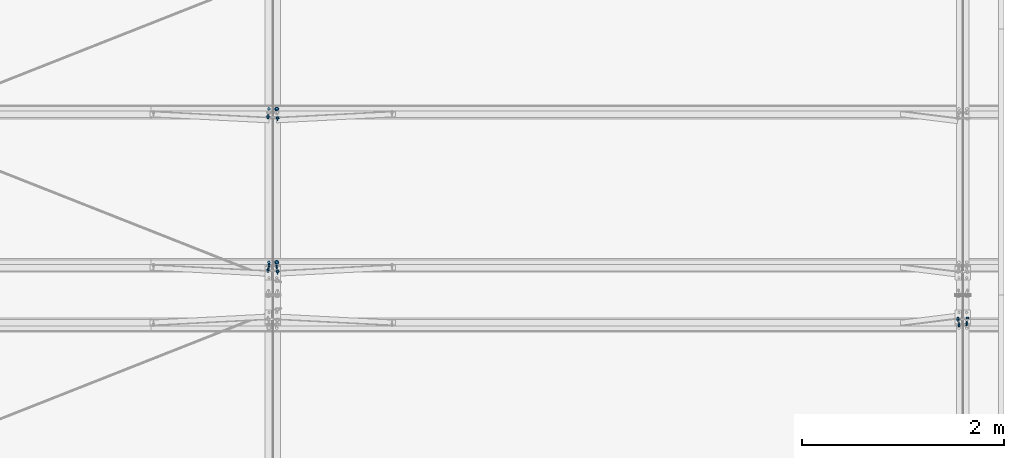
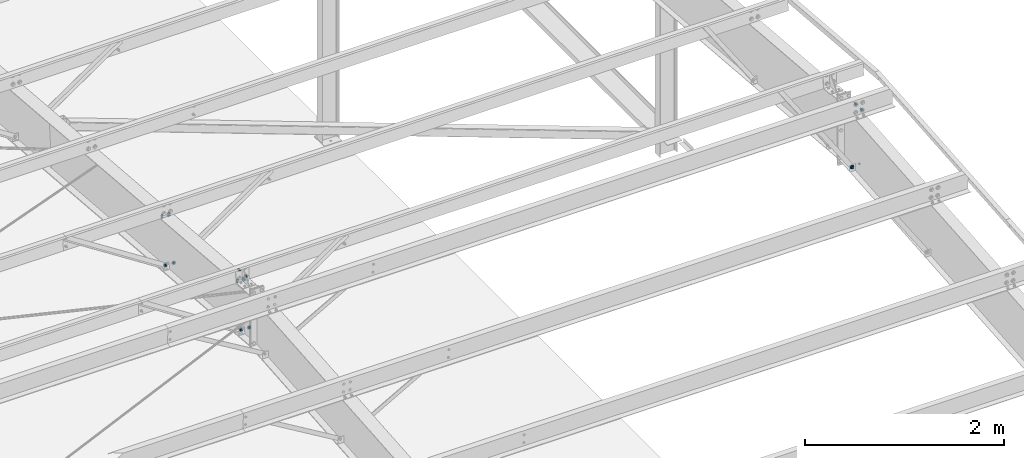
# One storey, part 173 of 185: 19 mechanical fasteners, 11 elements without a shape of their own.
"""IFC2X3 building model written with IfcOpenShell, lengths in millimetres."""

import ifcopenshell
import ifcopenshell.guid

model = None  # the IFC model being written
_history = None  # IfcOwnerHistory: only IFC2X3 demands one
_inside = {}  # id of a spatial element -> (the spatial element, [elements in it])
_under = {}  # id of a project, library or spatial element -> (it, [spatial elements below it])
_declared = {}  # id of a project -> (the project, [libraries it declares])
_typed = {}  # id of a type object -> (the type object, [elements of that type])
_made_of = {}  # id of a material, layer set ... -> (it, [elements and type objects made of it])


def new_model(schema):
    """Start an empty IFC model of exactly this schema.

    Asked for "IFC4X3", IfcOpenShell would pick the latest addendum, in which some entities
    have other attributes; the version numbers below select the first issue.
    IFC2X3 requires an IfcOwnerHistory on every rooted entity: one is made here for all.
    """
    global model, _history
    if schema == "IFC4X3":
        model = ifcopenshell.file(schema_version=(4, 3, 0, 0))
    else:
        model = ifcopenshell.file(schema=schema)
    _inside.clear()
    _under.clear()
    _declared.clear()
    _typed.clear()
    _made_of.clear()
    _history = None
    if model.schema == "IFC2X3":
        org = make("IfcOrganization", Name="unknown")
        user = make(
            "IfcPersonAndOrganization",
            ThePerson=make("IfcPerson", FamilyName="unknown"),
            TheOrganization=org,
        )
        app = make(
            "IfcApplication",
            ApplicationDeveloper=org,
            Version="unknown",
            ApplicationFullName="unknown",
            ApplicationIdentifier="unknown",
        )
        _history = make(
            "IfcOwnerHistory",
            OwningUser=user,
            OwningApplication=app,
            ChangeAction="ADDED",
            CreationDate=0,
        )
    return model


def make(cls, **values):
    """One entity of the class cls with the attributes given. An attribute that is None is left unset."""
    return model.create_entity(
        cls, **{name: value for name, value in values.items() if value is not None}
    )


def rooted(cls, **values):
    """An entity with a GlobalId (a new one), such as an element, a storey or a relation."""
    return make(cls, GlobalId=ifcopenshell.guid.new(), OwnerHistory=_history, **values)


def si_unit(unit_type, name, prefix=None):
    """IfcSIUnit, for example si_unit("LENGTHUNIT", "METRE", prefix="MILLI")."""
    return make("IfcSIUnit", UnitType=unit_type, Prefix=prefix, Name=name)


def assignment(units):
    """IfcUnitAssignment: the units of a project."""
    return None if units is None else make("IfcUnitAssignment", Units=units)


def point(xyz):
    """IfcCartesianPoint."""
    return None if xyz is None else make("IfcCartesianPoint", Coordinates=xyz)


def direction(xyz):
    """IfcDirection."""
    return None if xyz is None else make("IfcDirection", DirectionRatios=xyz)


def frame(location, z_axis=None, x_axis=None):
    """IfcAxis2Placement3D, a coordinate frame: its origin and axes. An axis left out is left unset."""
    return make(
        "IfcAxis2Placement3D",
        Location=point(location),
        Axis=direction(z_axis),
        RefDirection=direction(x_axis),
    )


def frame_2d(location, x_axis=None):
    """IfcAxis2Placement2D, a coordinate frame in the plane: its origin and x axis."""
    return make(
        "IfcAxis2Placement2D", Location=point(location), RefDirection=direction(x_axis)
    )


def origin_with_axes():
    """The frame at (0, 0, 0) with the z axis (0, 0, 1) and the x axis (1, 0, 0) written out."""
    return frame((0.0, 0.0, 0.0), z_axis=(0.0, 0.0, 1.0), x_axis=(1.0, 0.0, 0.0))


def origin_2d_with_axis():
    """The frame at (0, 0) in the plane with the x axis (1, 0) written out."""
    return frame_2d((0.0, 0.0), x_axis=(1.0, 0.0))


def place(relative_to, where):
    """IfcLocalPlacement: puts the frame where relative to a parent placement (None: the world)."""
    return make(
        "IfcLocalPlacement", PlacementRelTo=relative_to, RelativePlacement=where
    )


def context(
    kind, dimensions, precision=None, world=None, true_north=None, identifier=None
):
    """IfcGeometricRepresentationContext, for example the 3D "Model" context."""
    return make(
        "IfcGeometricRepresentationContext",
        ContextIdentifier=identifier,
        ContextType=kind,
        CoordinateSpaceDimension=dimensions,
        Precision=precision,
        WorldCoordinateSystem=world,
        TrueNorth=true_north,
    )


def subcontext(parent, identifier, kind, view, scale=None):
    """IfcGeometricRepresentationSubContext, for example "Body" below "Model"."""
    return make(
        "IfcGeometricRepresentationSubContext",
        ContextIdentifier=identifier,
        ContextType=kind,
        ParentContext=parent,
        TargetScale=scale,
        TargetView=view,
    )


def project(units=None, contexts=None):
    """IfcProject with its units and contexts."""
    return rooted(
        "IfcProject",
        Name="project",
        RepresentationContexts=contexts,
        UnitsInContext=assignment(units),
    )


def spatial(cls, under=None, at=None, **own):
    """A site, building, storey or space (cls), placed at a placement, below another one or the project."""
    s = rooted(cls, ObjectPlacement=at, **own)
    if under is not None:
        _under.setdefault(under.id(), (under, []))[1].append(s)
    return s


def polyline(points):
    """IfcPolyline through the points."""
    return make("IfcPolyline", Points=[point(p) for p in points])


def profile(cls, at=None, kind="AREA", **sizes):
    """A parametric profile (cls). Its sizes go by their IFC names, for example OverallWidth=200.0."""
    return make(cls, ProfileType=kind, Position=at, **sizes)


def circle(**sizes):
    """IfcCircleProfileDef."""
    return profile("IfcCircleProfileDef", **sizes)


def outline(outer, holes=None, kind="AREA"):
    """IfcArbitraryClosedProfileDef: a profile drawn as a closed curve; with holes, ...WithVoids."""
    if holes is None:
        return make("IfcArbitraryClosedProfileDef", ProfileType=kind, OuterCurve=outer)
    return make(
        "IfcArbitraryProfileDefWithVoids",
        ProfileType=kind,
        OuterCurve=outer,
        InnerCurves=holes,
    )


def extrude(swept, where, along, depth):
    """IfcExtrudedAreaSolid: the profile swept, set in the frame where, extruded along a direction by depth."""
    return make(
        "IfcExtrudedAreaSolid",
        SweptArea=swept,
        Position=where,
        ExtrudedDirection=direction(along),
        Depth=depth,
    )


def shape(context_of_items, identifier, shape_type, items):
    """IfcShapeRepresentation: the items that make up one representation, for example the "Body"."""
    return make(
        "IfcShapeRepresentation",
        ContextOfItems=context_of_items,
        RepresentationIdentifier=identifier,
        RepresentationType=shape_type,
        Items=items,
    )


def source(mapping_origin, context_of_items, identifier, shape_type, items):
    """IfcRepresentationMap: a shape defined once, which mapped items show again and again."""
    return make(
        "IfcRepresentationMap",
        MappingOrigin=mapping_origin,
        MappedRepresentation=shape(context_of_items, identifier, shape_type, items),
    )


def transform(
    local_origin,
    x_axis=None,
    y_axis=None,
    z_axis=None,
    scale=None,
    scale2=None,
    scale3=None,
    uniform=True,
):
    """IfcCartesianTransformationOperator3D, or its non-uniform kind. x_axis, y_axis, z_axis: its Axis1, 2, 3."""
    if uniform:
        return make(
            "IfcCartesianTransformationOperator3D",
            Axis1=direction(x_axis),
            Axis2=direction(y_axis),
            LocalOrigin=point(local_origin),
            Scale=scale,
            Axis3=direction(z_axis),
        )
    return make(
        "IfcCartesianTransformationOperator3DnonUniform",
        Axis1=direction(x_axis),
        Axis2=direction(y_axis),
        LocalOrigin=point(local_origin),
        Scale=scale,
        Axis3=direction(z_axis),
        Scale2=scale2,
        Scale3=scale3,
    )


def mapped(mapping_source, mapping_target):
    """IfcMappedItem: shows the shape of a source again, moved by a transform."""
    return make(
        "IfcMappedItem", MappingSource=mapping_source, MappingTarget=mapping_target
    )


def material(Name=None, Category=None):
    """IfcMaterial."""
    return make("IfcMaterial", Name=Name, Category=Category)


def made_of(thing, what):
    """Note that an element or type object is made of a material, layer set ...; save() writes the relation."""
    if what is not None:
        _made_of.setdefault(what.id(), (what, []))[1].append(thing)
    return thing


def type_object(cls, material=None, **own):
    """A type object (cls), such as IfcWallType, which elements share."""
    return made_of(rooted(cls, **own), material)


def element(
    cls,
    number,
    at=None,
    inside=None,
    cuts=None,
    type_object=None,
    material=None,
    context=None,
    identifier="Body",
    shape_type=None,
    held_by="IfcProductDefinitionShape",
    body=None,
    shapes=None,
    **own,
):
    """One element of the class cls, such as IfcWall. Its Tag is "e" and its number.

    at: its placement. inside: the storey or other place that contains it. cuts: it is an
    opening in that element (IfcRelVoidsElement). A single representation is given by context,
    identifier, shape_type and body (its items); several are given by shapes. held_by: the class
    of the entity that holds the representations. save() writes the other relations.
    """
    e = rooted(cls, Tag="e%d" % number, ObjectPlacement=at, **own)
    if body is not None:
        shapes = [shape(context, identifier, shape_type, body)]
    if shapes is not None:
        e.Representation = make(held_by, Representations=shapes)
    if inside is not None:
        _inside.setdefault(inside.id(), (inside, []))[1].append(e)
    if cuts is not None:
        rooted(
            "IfcRelVoidsElement", RelatingBuildingElement=cuts, RelatedOpeningElement=e
        )
    if type_object is not None:
        _typed.setdefault(type_object.id(), (type_object, []))[1].append(e)
    return made_of(e, material)


def aggregate(whole, parts):
    """IfcRelAggregates: a whole, such as a stair, and the parts it consists of."""
    return rooted("IfcRelAggregates", RelatingObject=whole, RelatedObjects=parts)


def save(model, path):
    """Write the relations noted so far, then the file.

    IfcRelAggregates (storeys below a building ...), IfcRelContainedInSpatialStructure (elements
    in a storey), IfcRelDefinesByType, IfcRelAssociatesMaterial and IfcRelDeclares: one each for
    every whole, place, type object, material and project.
    """
    for whole, parts in _under.values():
        aggregate(whole, parts)
    for where, things in _inside.values():
        rooted(
            "IfcRelContainedInSpatialStructure",
            RelatedElements=things,
            RelatingStructure=where,
        )
    for kind, things in _typed.values():
        rooted("IfcRelDefinesByType", RelatedObjects=things, RelatingType=kind)
    for what, things in _made_of.values():
        rooted("IfcRelAssociatesMaterial", RelatedObjects=things, RelatingMaterial=what)
    for by, libraries in _declared.values():
        rooted("IfcRelDeclares", RelatingContext=by, RelatedDefinitions=libraries)
    model.write(path)


model = new_model("IFC2X3")

# Units and contexts
model_context = context("Model", 3, precision=1e-05, world=origin_with_axes())
body_context = subcontext(model_context, "Body", "Model", "MODEL_VIEW")
ifc_project = project(units=[si_unit("LENGTHUNIT", "METRE", prefix="MILLI"), si_unit("AREAUNIT", "SQUARE_METRE"), si_unit("VOLUMEUNIT", "CUBIC_METRE"), si_unit("MASSUNIT", "GRAM", prefix="KILO"), si_unit("TIMEUNIT", "SECOND"), si_unit("PLANEANGLEUNIT", "RADIAN"), si_unit("SOLIDANGLEUNIT", "STERADIAN"), si_unit("THERMODYNAMICTEMPERATUREUNIT", "DEGREE_CELSIUS"), si_unit("LUMINOUSINTENSITYUNIT", "LUMEN")], contexts=[model_context])

# Site, building, storey
site_placement = place(None, origin_with_axes())
site = spatial("IfcSite", under=ifc_project, at=site_placement, Name="Undefined", CompositionType="ELEMENT")
building_placement = place(site_placement, origin_with_axes())
building = spatial("IfcBuilding", under=site, at=building_placement, Name="Undefined", CompositionType="ELEMENT")
storey_placement = place(building_placement, origin_with_axes())
storey = spatial("IfcBuildingStorey", under=building, at=storey_placement, Name="Undefined", CompositionType="ELEMENT", Elevation=0.0)

# Assembly, mechanical fastener
assembly_1_placement = place(storey_placement, origin_with_axes())
assembly_1 = element("IfcElementAssembly", 1, at=assembly_1_placement, inside=storey, Name="Steel Assembly", AssemblyPlace="NOTDEFINED", PredefinedType="RIGID_FRAME")
ifc_material_1 = material(Name="Undefined")
discrete_accessory_type = type_object("IfcDiscreteAccessoryType", Name="Bolt assembly")
shared_shape_1 = source(origin_with_axes(), body_context, "Body", "SweptSolid", [
    extrude(circle(Radius=7.14374971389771, at=origin_2d_with_axis()), frame((0.0, -1.59000001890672, 0.0), z_axis=(0.0, 1.0, 0.0), x_axis=(1.0, 0.0, 0.0)), (0.0, 0.0, 1.0), 1.7),
    extrude(outline(polyline([(10.9985221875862, 0.0), (5.4992610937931, 9.52499961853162), (-5.4992610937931, 9.52499961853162), (-10.9985221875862, 0.0), (-5.4992610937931, -9.52499961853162), (5.4992610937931, -9.52499961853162), (10.9985221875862, 0.0)])), frame((0.0, -15.0837496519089, 0.0), z_axis=(0.0, 1.0, 0.0), x_axis=(1.0, 0.0, 0.0)), (0.0, 0.0, 1.0), 9.5),
    extrude(circle(Radius=6.34999990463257, at=origin_2d_with_axis()), frame((0.0, -5.5587500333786, 0.0), z_axis=(0.0, 1.0, 0.0), x_axis=(1.0, 0.0, 0.0)), (0.0, 0.0, 1.0), 38.1),
    extrude(circle(Radius=13.4937496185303, at=origin_2d_with_axis()), frame((0.0, -5.5587500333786, 0.0), z_axis=(0.0, 1.0, 0.0), x_axis=(1.0, 0.0, 0.0)), (0.0, 0.0, 1.0), 4.0),
    extrude(circle(Radius=22.2250003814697, at=origin_2d_with_axis()), frame((0.0, 0.0, 0.0), z_axis=(0.0, 1.0, 0.0), x_axis=(1.0, 0.0, 0.0)), (0.0, 0.0, 1.0), 7.9),
    extrude(outline(polyline([(12.8316099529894, 0.0), (6.4158049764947, 11.1125001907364), (-6.4158049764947, 11.1125001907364), (-12.8316099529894, 0.0), (-6.4158049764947, -11.1125001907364), (6.4158049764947, -11.1125001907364), (12.8316099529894, 0.0)])), frame((0.0, 7.93750000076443, 0.0), z_axis=(0.0, 1.0, 0.0), x_axis=(1.0, 0.0, 0.0)), (0.0, 0.0, 1.0), 12.3),
])
mechanical_fastener_1_placement = place(assembly_1_placement, frame((44504.8883669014, 15769.6385191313, 6547.56487314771), z_axis=(0.832860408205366, -0.0459642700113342, 0.551571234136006), x_axis=(-0.553483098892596, -0.0691652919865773, 0.829983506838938)))
mechanical_fastener_1 = element("IfcMechanicalFastener", 2, at=mechanical_fastener_1_placement, type_object=discrete_accessory_type, material=ifc_material_1, Name="Bolt assembly", NominalDiameter=12.6999998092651, NominalLength=38.0999984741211, context=body_context, shape_type="MappedRepresentation", body=[
    mapped(shared_shape_1, transform((0.0, 0.0, 0.0))),
])
aggregate(assembly_1, [mechanical_fastener_1])

assembly_2_placement = place(storey_placement, origin_with_axes())
assembly_2 = element("IfcElementAssembly", 3, at=assembly_2_placement, inside=storey, Name="Steel Assembly", AssemblyPlace="NOTDEFINED", PredefinedType="RIGID_FRAME")
mechanical_fastener_2_placement = place(assembly_2_placement, frame((37671.9939479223, 16242.6408740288, 6646.91759139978), z_axis=(-0.530152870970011, -0.0704144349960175, -0.844973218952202), x_axis=(-0.847902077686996, 0.0440267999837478, 0.52832159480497)))
mechanical_fastener_2 = element("IfcMechanicalFastener", 4, at=mechanical_fastener_2_placement, type_object=discrete_accessory_type, material=ifc_material_1, Name="Bolt assembly", NominalDiameter=12.6999998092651, NominalLength=38.0999984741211, context=body_context, shape_type="MappedRepresentation", body=[
    mapped(shared_shape_1, transform((0.0, 0.0, 0.0))),
])
aggregate(assembly_2, [mechanical_fastener_2])

assembly_3_placement = place(storey_placement, origin_with_axes())
assembly_3 = element("IfcElementAssembly", 5, at=assembly_3_placement, inside=storey, Name="Steel Assembly", AssemblyPlace="NOTDEFINED", PredefinedType="RIGID_FRAME")
mechanical_fastener_3_placement = place(assembly_3_placement, frame((37671.9939479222, 17761.3766095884, 6520.35628009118), z_axis=(-0.530152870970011, -0.0704144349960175, -0.844973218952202), x_axis=(-0.847902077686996, 0.0440267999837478, 0.52832159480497)))
mechanical_fastener_3 = element("IfcMechanicalFastener", 6, at=mechanical_fastener_3_placement, type_object=discrete_accessory_type, material=ifc_material_1, Name="Bolt assembly", NominalDiameter=12.6999998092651, NominalLength=38.0999984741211, context=body_context, shape_type="MappedRepresentation", body=[
    mapped(shared_shape_1, transform((0.0, 0.0, 0.0))),
])
aggregate(assembly_3, [mechanical_fastener_3])

assembly_4_placement = place(storey_placement, origin_with_axes())
assembly_4 = element("IfcElementAssembly", 7, at=assembly_4_placement, inside=storey, Name="Steel Assembly", AssemblyPlace="NOTDEFINED", PredefinedType="RIGID_FRAME")
shared_shape_2 = source(origin_with_axes(), body_context, "Body", "SweptSolid", [
    extrude(circle(Radius=7.14374971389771, at=origin_2d_with_axis()), frame((0.0, 0.0, 0.0), z_axis=(0.0, 1.0, 0.0), x_axis=(1.0, 0.0, 0.0)), (0.0, 0.0, 1.0), 1.7),
    extrude(outline(polyline([(10.9985221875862, 0.0), (5.4992610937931, 9.52499961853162), (-5.4992610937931, 9.52499961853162), (-10.9985221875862, 0.0), (-5.4992610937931, -9.52499961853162), (5.4992610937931, -9.52499961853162), (10.9985221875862, 0.0)])), frame((0.0, -13.4937496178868, 0.0), z_axis=(0.0, 1.0, 0.0), x_axis=(1.0, 0.0, 0.0)), (0.0, 0.0, 1.0), 9.5),
    extrude(circle(Radius=6.34999990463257, at=origin_2d_with_axis()), frame((0.0, -3.96874999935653, 0.0), z_axis=(0.0, 1.0, 0.0), x_axis=(1.0, 0.0, 0.0)), (0.0, 0.0, 1.0), 38.1),
    extrude(circle(Radius=13.4937496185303, at=origin_2d_with_axis()), frame((0.0, -3.96874999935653, 0.0), z_axis=(0.0, 1.0, 0.0), x_axis=(1.0, 0.0, 0.0)), (0.0, 0.0, 1.0), 4.0),
    extrude(circle(Radius=22.2250003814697, at=origin_2d_with_axis()), frame((0.0, 1.5900000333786, 0.0), z_axis=(0.0, 1.0, 0.0), x_axis=(1.0, 0.0, 0.0)), (0.0, 0.0, 1.0), 7.9),
    extrude(outline(polyline([(12.8316099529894, 0.0), (6.4158049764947, 11.1125001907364), (-6.4158049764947, 11.1125001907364), (-12.8316099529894, 0.0), (-6.4158049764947, -11.1125001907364), (6.4158049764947, -11.1125001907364), (12.8316099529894, 0.0)])), frame((0.0, 9.5275000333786, 0.0), z_axis=(0.0, 1.0, 0.0), x_axis=(1.0, 0.0, 0.0)), (0.0, 0.0, 1.0), 12.3),
])
mechanical_fastener_4_placement = place(assembly_4_placement, frame((37766.0060520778, 17761.3766095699, 6520.35628008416), z_axis=(0.530152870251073, -0.0704144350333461, -0.844973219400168), x_axis=(0.847902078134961, 0.0440268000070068, 0.528321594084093)))
mechanical_fastener_4 = element("IfcMechanicalFastener", 8, at=mechanical_fastener_4_placement, type_object=discrete_accessory_type, material=ifc_material_1, Name="Bolt assembly", NominalDiameter=12.6999998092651, NominalLength=38.0999984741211, context=body_context, shape_type="MappedRepresentation", body=[
    mapped(shared_shape_2, transform((0.0, 0.0, 0.0))),
])
aggregate(assembly_4, [mechanical_fastener_4])

assembly_5_placement = place(storey_placement, origin_with_axes())
assembly_5 = element("IfcElementAssembly", 9, at=assembly_5_placement, inside=storey, Name="Steel Assembly", AssemblyPlace="NOTDEFINED", PredefinedType="RIGID_FRAME")
mechanical_fastener_5_placement = place(assembly_5_placement, frame((37766.0060520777, 16242.640874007, 6646.91759139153), z_axis=(0.530152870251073, -0.0704144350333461, -0.844973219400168), x_axis=(0.847902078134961, 0.0440268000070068, 0.528321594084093)))
mechanical_fastener_5 = element("IfcMechanicalFastener", 10, at=mechanical_fastener_5_placement, type_object=discrete_accessory_type, material=ifc_material_1, Name="Bolt assembly", NominalDiameter=12.6999998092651, NominalLength=38.0999984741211, context=body_context, shape_type="MappedRepresentation", body=[
    mapped(shared_shape_2, transform((0.0, 0.0, 0.0))),
])
aggregate(assembly_5, [mechanical_fastener_5])

assembly_6_placement = place(storey_placement, origin_with_axes())
assembly_6 = element("IfcElementAssembly", 11, at=assembly_6_placement, inside=storey, Name="Steel Assembly", AssemblyPlace="NOTDEFINED", PredefinedType="RIGID_FRAME")
ifc_material_2 = material(Name="7990")
shared_shape_3 = source(origin_with_axes(), body_context, "Body", "SweptSolid", [
    extrude(circle(Radius=7.14374971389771, at=origin_2d_with_axis()), frame((0.0, -3.41600000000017, 0.0), z_axis=(0.0, 1.0, 0.0), x_axis=(1.0, 0.0, 0.0)), (0.0, 0.0, 1.0), 3.5),
    extrude(circle(Radius=11.4299998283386, at=origin_2d_with_axis()), frame((0.0, 0.0, 0.0), z_axis=(0.0, 1.0, 0.0), x_axis=(1.0, 0.0, 0.0)), (0.0, 0.0, 1.0), 4.2),
    extrude(outline(polyline([(12.171698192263, 0.0), (6.08584909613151, 10.5409998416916), (-6.08584909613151, 10.5409998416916), (-12.171698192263, 0.0), (-6.08584909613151, -10.5409998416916), (6.08584909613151, -10.5409998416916), (12.171698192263, 0.0)])), frame((0.0, 4.1909999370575, 0.0), z_axis=(0.0, 1.0, 0.0), x_axis=(1.0, 0.0, 0.0)), (0.0, 0.0, 1.0), 8.4),
])
mechanical_fastener_6_placement = place(assembly_6_placement, frame((44597.75815, 15769.7076844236, 6546.73488964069), z_axis=(0.921635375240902, -0.0322263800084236, 0.386716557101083), x_axis=(0.388056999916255, 0.0765376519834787, -0.9184518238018)))
mechanical_fastener_6 = element("IfcMechanicalFastener", 12, at=mechanical_fastener_6_placement, type_object=discrete_accessory_type, material=ifc_material_2, Name="Bolt assembly", NominalDiameter=12.6999998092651, NominalLength=38.0999984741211, context=body_context, shape_type="MappedRepresentation", body=[
    mapped(shared_shape_3, transform((0.0, 0.0, 0.0))),
])

# Assembly, mechanical fasteners
assembly_7_placement = place(storey_placement, origin_with_axes())
assembly_7 = element("IfcElementAssembly", 13, at=assembly_7_placement, inside=storey, Name="Steel Assembly", AssemblyPlace="NOTDEFINED", PredefinedType="RIGID_FRAME")
mechanical_fastener_7_placement = place(assembly_7_placement, frame((37765.15815, 16242.5968472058, 6646.38926977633), z_axis=(-0.921635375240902, -0.0322263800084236, -0.386716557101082), x_axis=(0.388056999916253, -0.0765376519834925, -0.918451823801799)))
mechanical_fastener_7 = element("IfcMechanicalFastener", 14, at=mechanical_fastener_7_placement, type_object=discrete_accessory_type, material=ifc_material_2, Name="Bolt assembly", NominalDiameter=12.6999998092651, NominalLength=38.0999984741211, context=body_context, shape_type="MappedRepresentation", body=[
    mapped(shared_shape_3, transform((0.0, 0.0, 0.0))),
])
mechanical_fastener_8_placement = place(assembly_7_placement, frame((37765.15815, 17761.3325827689, 6519.82795847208), z_axis=(-0.921635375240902, -0.0322263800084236, -0.386716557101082), x_axis=(0.388056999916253, -0.0765376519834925, -0.918451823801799)))
mechanical_fastener_8 = element("IfcMechanicalFastener", 15, at=mechanical_fastener_8_placement, type_object=discrete_accessory_type, material=ifc_material_2, Name="Bolt assembly", NominalDiameter=12.6999998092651, NominalLength=38.0999984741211, context=body_context, shape_type="MappedRepresentation", body=[
    mapped(shared_shape_3, transform((0.0, 0.0, 0.0))),
])

# Mechanical fastener
shared_shape_4 = source(origin_with_axes(), body_context, "Body", "SweptSolid", [
    extrude(circle(Radius=7.14374971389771, at=origin_2d_with_axis()), frame((0.0, 0.0, 0.0), z_axis=(0.0, 1.0, 0.0), x_axis=(1.0, 0.0, 0.0)), (0.0, 0.0, 1.0), 3.5),
    extrude(circle(Radius=11.4299998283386, at=origin_2d_with_axis()), frame((0.0, 3.41600000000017, 0.0), z_axis=(0.0, 1.0, 0.0), x_axis=(1.0, 0.0, 0.0)), (0.0, 0.0, 1.0), 4.2),
    extrude(outline(polyline([(12.171698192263, 0.0), (6.08584909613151, 10.5409998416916), (-6.08584909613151, 10.5409998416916), (-12.171698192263, 0.0), (-6.08584909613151, -10.5409998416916), (6.08584909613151, -10.5409998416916), (12.171698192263, 0.0)])), frame((0.0, 7.60699993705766, 0.0), z_axis=(0.0, 1.0, 0.0), x_axis=(1.0, 0.0, 0.0)), (0.0, 0.0, 1.0), 8.4),
])
mechanical_fastener_9_placement = place(assembly_6_placement, frame((44505.44185, 15769.7076844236, 6546.73488964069), z_axis=(-0.921635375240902, -0.0322263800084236, 0.386716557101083), x_axis=(-0.388056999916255, 0.0765376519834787, -0.9184518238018)))
mechanical_fastener_9 = element("IfcMechanicalFastener", 16, at=mechanical_fastener_9_placement, type_object=discrete_accessory_type, material=ifc_material_2, Name="Bolt assembly", NominalDiameter=12.6999998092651, NominalLength=38.0999984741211, context=body_context, shape_type="MappedRepresentation", body=[
    mapped(shared_shape_4, transform((0.0, 0.0, 0.0))),
])

aggregate(assembly_6, [mechanical_fastener_9, mechanical_fastener_6])

mechanical_fastener_10_placement = place(assembly_7_placement, frame((37672.84185, 16242.5968472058, 6646.38926977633), z_axis=(0.921635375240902, -0.0322263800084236, -0.386716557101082), x_axis=(-0.388056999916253, -0.0765376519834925, -0.918451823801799)))
mechanical_fastener_10 = element("IfcMechanicalFastener", 17, at=mechanical_fastener_10_placement, type_object=discrete_accessory_type, material=ifc_material_2, Name="Bolt assembly", NominalDiameter=12.6999998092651, NominalLength=38.0999984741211, context=body_context, shape_type="MappedRepresentation", body=[
    mapped(shared_shape_4, transform((0.0, 0.0, 0.0))),
])

mechanical_fastener_11_placement = place(assembly_7_placement, frame((37672.84185, 17761.3325827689, 6519.82795847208), z_axis=(0.921635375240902, -0.0322263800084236, -0.386716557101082), x_axis=(-0.388056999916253, -0.0765376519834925, -0.918451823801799)))
mechanical_fastener_11 = element("IfcMechanicalFastener", 18, at=mechanical_fastener_11_placement, type_object=discrete_accessory_type, material=ifc_material_2, Name="Bolt assembly", NominalDiameter=12.6999998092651, NominalLength=38.0999984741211, context=body_context, shape_type="MappedRepresentation", body=[
    mapped(shared_shape_4, transform((0.0, 0.0, 0.0))),
])

aggregate(assembly_7, [mechanical_fastener_10, mechanical_fastener_7, mechanical_fastener_11, mechanical_fastener_8])

# Assembly, mechanical fasteners
assembly_8_placement = place(storey_placement, origin_with_axes())
assembly_8 = element("IfcElementAssembly", 19, at=assembly_8_placement, inside=storey, Name="Steel Assembly", AssemblyPlace="NOTDEFINED", PredefinedType="RIGID_FRAME")
shared_shape_5 = source(origin_with_axes(), body_context, "Body", "SweptSolid", [
    extrude(circle(Radius=7.14374971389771, at=origin_2d_with_axis()), frame((0.0, -0.0238014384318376, 0.0), z_axis=(0.0, 1.0, 0.0), x_axis=(1.0, 0.0, 0.0)), (0.0, 0.0, 1.0), 8.0),
    extrude(circle(Radius=7.14374971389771, at=origin_2d_with_axis()), frame((0.0, -3.18000030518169, 0.0), z_axis=(0.0, 1.0, 0.0), x_axis=(1.0, 0.0, 0.0)), (0.0, 0.0, 1.0), 3.2),
    extrude(circle(Radius=7.14374971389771, at=origin_2d_with_axis()), frame((0.0, -3.08000006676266, 0.0), z_axis=(0.0, 1.0, 0.0), x_axis=(1.0, 0.0, 0.0)), (0.0, 0.0, 1.0), 3.2),
    extrude(outline(polyline([(10.9985221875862, 0.0), (5.4992610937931, 9.52499961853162), (-5.4992610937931, 9.52499961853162), (-10.9985221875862, 0.0), (-5.4992610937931, -9.52499961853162), (5.4992610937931, -9.52499961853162), (10.9985221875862, 0.0)])), frame((0.0, -16.6737496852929, 0.0), z_axis=(0.0, 1.0, 0.0), x_axis=(1.0, 0.0, 0.0)), (0.0, 0.0, 1.0), 9.5),
    extrude(circle(Radius=6.34999990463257, at=origin_2d_with_axis()), frame((0.0, -7.14875006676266, 0.0), z_axis=(0.0, 1.0, 0.0), x_axis=(1.0, 0.0, 0.0)), (0.0, 0.0, 1.0), 38.1),
    extrude(circle(Radius=13.4937496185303, at=origin_2d_with_axis()), frame((0.0, -7.14875006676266, 0.0), z_axis=(0.0, 1.0, 0.0), x_axis=(1.0, 0.0, 0.0)), (0.0, 0.0, 1.0), 4.0),
    extrude(circle(Radius=22.2250003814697, at=origin_2d_with_axis()), frame((0.0, 7.95019856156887, 0.0), z_axis=(0.0, 1.0, 0.0), x_axis=(1.0, 0.0, 0.0)), (0.0, 0.0, 1.0), 7.9),
    extrude(outline(polyline([(12.8316099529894, 0.0), (6.4158049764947, 11.1125001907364), (-6.4158049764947, 11.1125001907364), (-12.8316099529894, 0.0), (-6.4158049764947, -11.1125001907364), (6.4158049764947, -11.1125001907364), (12.8316099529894, 0.0)])), frame((0.0, 15.8876985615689, 0.0), z_axis=(0.0, 1.0, 0.0), x_axis=(1.0, 0.0, 0.0)), (0.0, 0.0, 1.0), 12.3),
])
mechanical_fastener_12_placement = place(assembly_8_placement, frame((37757.1, 17845.5760101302, 7071.96433337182), z_axis=(-1.0, 0.0, 0.0), x_axis=(0.0, 0.996545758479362, -0.0830454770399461)))
mechanical_fastener_12 = element("IfcMechanicalFastener", 20, at=mechanical_fastener_12_placement, type_object=discrete_accessory_type, material=ifc_material_1, Name="Bolt assembly", NominalDiameter=12.6999998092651, NominalLength=38.0999984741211, context=body_context, shape_type="MappedRepresentation", body=[
    mapped(shared_shape_5, transform((0.0, 0.0, 0.0))),
])
shared_shape_6 = source(origin_with_axes(), body_context, "Body", "SweptSolid", [
    extrude(circle(Radius=7.14374971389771, at=origin_2d_with_axis()), frame((0.0, -0.0238014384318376, 0.0), z_axis=(0.0, 1.0, 0.0), x_axis=(1.0, 0.0, 0.0)), (0.0, 0.0, 1.0), 8.0),
    extrude(circle(Radius=7.14374971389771, at=origin_2d_with_axis()), frame((0.0, -3.18000030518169, 0.0), z_axis=(0.0, 1.0, 0.0), x_axis=(1.0, 0.0, 0.0)), (0.0, 0.0, 1.0), 3.2),
    extrude(circle(Radius=7.14374971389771, at=origin_2d_with_axis()), frame((0.0, -3.08000006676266, 0.0), z_axis=(0.0, 1.0, 0.0), x_axis=(1.0, 0.0, 0.0)), (0.0, 0.0, 1.0), 3.2),
    extrude(outline(polyline([(10.9985221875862, 0.0), (5.4992610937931, 9.52499961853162), (-5.4992610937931, 9.52499961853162), (-10.9985221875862, 0.0), (-5.4992610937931, -9.52499961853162), (5.4992610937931, -9.52499961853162), (10.9985221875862, 0.0)])), frame((0.0, -16.6737496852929, 0.0), z_axis=(0.0, 1.0, 0.0), x_axis=(1.0, 0.0, 0.0)), (0.0, 0.0, 1.0), 9.5),
    extrude(circle(Radius=6.34999990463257, at=origin_2d_with_axis()), frame((0.0, -7.14875006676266, 0.0), z_axis=(0.0, 1.0, 0.0), x_axis=(1.0, 0.0, 0.0)), (0.0, 0.0, 1.0), 38.1),
    extrude(circle(Radius=13.4937496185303, at=origin_2d_with_axis()), frame((0.0, -7.14875006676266, 0.0), z_axis=(0.0, 1.0, 0.0), x_axis=(1.0, 0.0, 0.0)), (0.0, 0.0, 1.0), 4.0),
    extrude(outline(polyline([(12.8316099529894, 0.0), (6.4158049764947, 11.1125001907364), (-6.4158049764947, 11.1125001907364), (-12.8316099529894, 0.0), (-6.4158049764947, -11.1125001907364), (6.4158049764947, -11.1125001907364), (12.8316099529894, 0.0)])), frame((0.0, 7.95019856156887, 0.0), z_axis=(0.0, 1.0, 0.0), x_axis=(1.0, 0.0, 0.0)), (0.0, 0.0, 1.0), 12.3),
])
mechanical_fastener_13_placement = place(assembly_8_placement, frame((37680.9, 17845.5760101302, 7071.96433337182), z_axis=(-1.0, 0.0, 0.0), x_axis=(0.0, 0.996545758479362, -0.0830454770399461)))
mechanical_fastener_13 = element("IfcMechanicalFastener", 21, at=mechanical_fastener_13_placement, type_object=discrete_accessory_type, material=ifc_material_1, Name="Bolt assembly", NominalDiameter=12.6999998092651, NominalLength=38.0999984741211, context=body_context, shape_type="MappedRepresentation", body=[
    mapped(shared_shape_6, transform((0.0, 0.0, 0.0))),
])
aggregate(assembly_8, [mechanical_fastener_12, mechanical_fastener_13])

# Assembly, mechanical fastener
assembly_9_placement = place(storey_placement, origin_with_axes())
assembly_9 = element("IfcElementAssembly", 22, at=assembly_9_placement, inside=storey, Name="Steel Assembly", AssemblyPlace="NOTDEFINED", PredefinedType="RIGID_FRAME")
shared_shape_7 = source(origin_with_axes(), body_context, "Body", "SweptSolid", [
    extrude(circle(Radius=7.14374971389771, at=origin_2d_with_axis()), frame((0.0, 0.0, 0.0), z_axis=(0.0, 1.0, 0.0), x_axis=(1.0, 0.0, 0.0)), (0.0, 0.0, 1.0), 6.5),
    extrude(outline(polyline([(10.9985221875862, 0.0), (5.4992610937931, 9.52499961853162), (-5.4992610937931, 9.52499961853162), (-10.9985221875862, 0.0), (-5.4992610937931, -9.52499961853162), (5.4992610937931, -9.52499961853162), (10.9985221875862, 0.0)])), frame((0.0, -13.4937496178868, 0.0), z_axis=(0.0, 1.0, 0.0), x_axis=(1.0, 0.0, 0.0)), (0.0, 0.0, 1.0), 9.5),
    extrude(circle(Radius=6.34999990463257, at=origin_2d_with_axis()), frame((0.0, -3.96874999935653, 0.0), z_axis=(0.0, 1.0, 0.0), x_axis=(1.0, 0.0, 0.0)), (0.0, 0.0, 1.0), 38.1),
    extrude(circle(Radius=13.4937496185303, at=origin_2d_with_axis()), frame((0.0, -3.96874999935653, 0.0), z_axis=(0.0, 1.0, 0.0), x_axis=(1.0, 0.0, 0.0)), (0.0, 0.0, 1.0), 4.0),
    extrude(outline(polyline([(12.8316099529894, 0.0), (6.4158049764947, 11.1125001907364), (-6.4158049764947, 11.1125001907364), (-12.8316099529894, 0.0), (-6.4158049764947, -11.1125001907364), (6.4158049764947, -11.1125001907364), (12.8316099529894, 0.0)])), frame((0.0, 6.35000000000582, 0.0), z_axis=(0.0, 1.0, 0.0), x_axis=(1.0, 0.0, 0.0)), (0.0, 0.0, 1.0), 12.3),
])
mechanical_fastener_14_placement = place(assembly_9_placement, frame((44513.5, 15702.4719876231, 7353.56325125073), z_axis=(1.0, 0.0, 0.0), x_axis=(0.0, 0.0830454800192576, -0.996545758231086)))
mechanical_fastener_14 = element("IfcMechanicalFastener", 23, at=mechanical_fastener_14_placement, type_object=discrete_accessory_type, material=ifc_material_1, Name="Bolt assembly", NominalDiameter=12.6999998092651, NominalLength=38.0999984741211, context=body_context, shape_type="MappedRepresentation", body=[
    mapped(shared_shape_7, transform((0.0, 0.0, 0.0))),
])

# Assembly, mechanical fasteners
assembly_10_placement = place(storey_placement, origin_with_axes())
assembly_10 = element("IfcElementAssembly", 24, at=assembly_10_placement, inside=storey, Name="Steel Assembly", AssemblyPlace="NOTDEFINED", PredefinedType="RIGID_FRAME")
mechanical_fastener_15_placement = place(assembly_10_placement, frame((37757.1, 16293.0905915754, 7252.31420222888), z_axis=(-1.0, 0.0, 0.0), x_axis=(0.0, -0.0830454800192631, -0.996545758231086)))
mechanical_fastener_15 = element("IfcMechanicalFastener", 25, at=mechanical_fastener_15_placement, type_object=discrete_accessory_type, material=ifc_material_1, Name="Bolt assembly", NominalDiameter=12.6999998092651, NominalLength=38.0999984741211, context=body_context, shape_type="MappedRepresentation", body=[
    mapped(shared_shape_7, transform((0.0, 0.0, 0.0))),
])
mechanical_fastener_16_placement = place(assembly_10_placement, frame((37680.9, 16301.5280123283, 7353.56325126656), z_axis=(-1.0, 0.0, 0.0), x_axis=(0.0, -0.0830454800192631, -0.996545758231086)))
mechanical_fastener_16 = element("IfcMechanicalFastener", 26, at=mechanical_fastener_16_placement, type_object=discrete_accessory_type, material=ifc_material_1, Name="Bolt assembly", NominalDiameter=12.6999998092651, NominalLength=38.0999984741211, context=body_context, shape_type="MappedRepresentation", body=[
    mapped(shared_shape_7, transform((0.0, 0.0, 0.0))),
])
aggregate(assembly_10, [mechanical_fastener_15, mechanical_fastener_16])

# Mechanical fastener
shared_shape_8 = source(origin_with_axes(), body_context, "Body", "SweptSolid", [
    extrude(circle(Radius=7.14374971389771, at=origin_2d_with_axis()), frame((0.0, 0.0, 0.0), z_axis=(0.0, 1.0, 0.0), x_axis=(1.0, 0.0, 0.0)), (0.0, 0.0, 1.0), 6.4),
    extrude(outline(polyline([(10.9985221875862, 0.0), (5.4992610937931, 9.52499961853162), (-5.4992610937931, 9.52499961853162), (-10.9985221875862, 0.0), (-5.4992610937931, -9.52499961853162), (5.4992610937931, -9.52499961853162), (10.9985221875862, 0.0)])), frame((0.0, -13.4937496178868, 0.0), z_axis=(0.0, 1.0, 0.0), x_axis=(1.0, 0.0, 0.0)), (0.0, 0.0, 1.0), 9.5),
    extrude(circle(Radius=6.34999990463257, at=origin_2d_with_axis()), frame((0.0, -3.96874999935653, 0.0), z_axis=(0.0, 1.0, 0.0), x_axis=(1.0, 0.0, 0.0)), (0.0, 0.0, 1.0), 38.1),
    extrude(circle(Radius=13.4937496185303, at=origin_2d_with_axis()), frame((0.0, -3.96874999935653, 0.0), z_axis=(0.0, 1.0, 0.0), x_axis=(1.0, 0.0, 0.0)), (0.0, 0.0, 1.0), 4.0),
    extrude(outline(polyline([(12.8316099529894, 0.0), (6.4158049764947, 11.1125001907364), (-6.4158049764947, 11.1125001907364), (-12.8316099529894, 0.0), (-6.4158049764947, -11.1125001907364), (6.4158049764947, -11.1125001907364), (12.8316099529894, 0.0)])), frame((0.0, 6.35000000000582, 0.0), z_axis=(0.0, 1.0, 0.0), x_axis=(1.0, 0.0, 0.0)), (0.0, 0.0, 1.0), 12.3),
])
mechanical_fastener_17_placement = place(assembly_9_placement, frame((44589.7, 15710.9094083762, 7252.31420221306), z_axis=(1.0, 0.0, 0.0), x_axis=(0.0, 0.0830454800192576, -0.996545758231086)))
mechanical_fastener_17 = element("IfcMechanicalFastener", 27, at=mechanical_fastener_17_placement, type_object=discrete_accessory_type, material=ifc_material_1, Name="Bolt assembly", NominalDiameter=12.6999998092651, NominalLength=38.0999984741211, context=body_context, shape_type="MappedRepresentation", body=[
    mapped(shared_shape_8, transform((0.0, 0.0, 0.0))),
])

aggregate(assembly_9, [mechanical_fastener_17, mechanical_fastener_14])

# Assembly, mechanical fasteners
assembly_11_placement = place(storey_placement, origin_with_axes())
assembly_11 = element("IfcElementAssembly", 28, at=assembly_11_placement, inside=storey, Name="Steel Assembly", AssemblyPlace="NOTDEFINED", PredefinedType="RIGID_FRAME")
shared_shape_9 = source(origin_with_axes(), body_context, "Body", "SweptSolid", [
    extrude(circle(Radius=7.14374971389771, at=origin_2d_with_axis()), frame((0.0, -0.0238014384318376, 0.0), z_axis=(0.0, 1.0, 0.0), x_axis=(1.0, 0.0, 0.0)), (0.0, 0.0, 1.0), 8.0),
    extrude(circle(Radius=7.14374971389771, at=origin_2d_with_axis()), frame((0.0, -3.08000006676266, 0.0), z_axis=(0.0, 1.0, 0.0), x_axis=(1.0, 0.0, 0.0)), (0.0, 0.0, 1.0), 3.2),
    extrude(circle(Radius=7.14374971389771, at=origin_2d_with_axis()), frame((0.0, -3.08000006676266, 0.0), z_axis=(0.0, 1.0, 0.0), x_axis=(1.0, 0.0, 0.0)), (0.0, 0.0, 1.0), 3.2),
    extrude(outline(polyline([(10.9985221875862, 0.0), (5.4992610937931, 9.52499961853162), (-5.4992610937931, 9.52499961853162), (-10.9985221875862, 0.0), (-5.4992610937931, -9.52499961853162), (5.4992610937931, -9.52499961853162), (10.9985221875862, 0.0)])), frame((0.0, -16.6737496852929, 0.0), z_axis=(0.0, 1.0, 0.0), x_axis=(1.0, 0.0, 0.0)), (0.0, 0.0, 1.0), 9.5),
    extrude(circle(Radius=6.34999990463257, at=origin_2d_with_axis()), frame((0.0, -7.14875006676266, 0.0), z_axis=(0.0, 1.0, 0.0), x_axis=(1.0, 0.0, 0.0)), (0.0, 0.0, 1.0), 38.1),
    extrude(circle(Radius=13.4937496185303, at=origin_2d_with_axis()), frame((0.0, -7.14875006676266, 0.0), z_axis=(0.0, 1.0, 0.0), x_axis=(1.0, 0.0, 0.0)), (0.0, 0.0, 1.0), 4.0),
    extrude(circle(Radius=22.2250003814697, at=origin_2d_with_axis()), frame((0.0, 7.95019856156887, 0.0), z_axis=(0.0, 1.0, 0.0), x_axis=(1.0, 0.0, 0.0)), (0.0, 0.0, 1.0), 7.9),
    extrude(outline(polyline([(12.8316099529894, 0.0), (6.4158049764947, 11.1125001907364), (-6.4158049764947, 11.1125001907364), (-12.8316099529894, 0.0), (-6.4158049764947, -11.1125001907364), (6.4158049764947, -11.1125001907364), (12.8316099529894, 0.0)])), frame((0.0, 15.8876985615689, 0.0), z_axis=(0.0, 1.0, 0.0), x_axis=(1.0, 0.0, 0.0)), (0.0, 0.0, 1.0), 12.3),
])
mechanical_fastener_18_placement = place(assembly_11_placement, frame((37757.1, 16326.840274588, 7198.52564492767), z_axis=(-1.0, 0.0, 0.0), x_axis=(0.0, 0.996545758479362, -0.0830454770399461)))
mechanical_fastener_18 = element("IfcMechanicalFastener", 29, at=mechanical_fastener_18_placement, type_object=discrete_accessory_type, material=ifc_material_1, Name="Bolt assembly", NominalDiameter=12.6999998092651, NominalLength=38.0999984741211, context=body_context, shape_type="MappedRepresentation", body=[
    mapped(shared_shape_9, transform((0.0, 0.0, 0.0))),
])
shared_shape_10 = source(origin_with_axes(), body_context, "Body", "SweptSolid", [
    extrude(circle(Radius=7.14374971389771, at=origin_2d_with_axis()), frame((0.0, -0.0238014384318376, 0.0), z_axis=(0.0, 1.0, 0.0), x_axis=(1.0, 0.0, 0.0)), (0.0, 0.0, 1.0), 8.0),
    extrude(circle(Radius=7.14374971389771, at=origin_2d_with_axis()), frame((0.0, -3.08000006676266, 0.0), z_axis=(0.0, 1.0, 0.0), x_axis=(1.0, 0.0, 0.0)), (0.0, 0.0, 1.0), 3.2),
    extrude(circle(Radius=7.14374971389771, at=origin_2d_with_axis()), frame((0.0, -3.08000006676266, 0.0), z_axis=(0.0, 1.0, 0.0), x_axis=(1.0, 0.0, 0.0)), (0.0, 0.0, 1.0), 3.2),
    extrude(outline(polyline([(10.9985221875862, 0.0), (5.4992610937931, 9.52499961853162), (-5.4992610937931, 9.52499961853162), (-10.9985221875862, 0.0), (-5.4992610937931, -9.52499961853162), (5.4992610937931, -9.52499961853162), (10.9985221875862, 0.0)])), frame((0.0, -16.6737496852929, 0.0), z_axis=(0.0, 1.0, 0.0), x_axis=(1.0, 0.0, 0.0)), (0.0, 0.0, 1.0), 9.5),
    extrude(circle(Radius=6.34999990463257, at=origin_2d_with_axis()), frame((0.0, -7.14875006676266, 0.0), z_axis=(0.0, 1.0, 0.0), x_axis=(1.0, 0.0, 0.0)), (0.0, 0.0, 1.0), 38.1),
    extrude(circle(Radius=13.4937496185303, at=origin_2d_with_axis()), frame((0.0, -7.14875006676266, 0.0), z_axis=(0.0, 1.0, 0.0), x_axis=(1.0, 0.0, 0.0)), (0.0, 0.0, 1.0), 4.0),
    extrude(outline(polyline([(12.8316099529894, 0.0), (6.4158049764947, 11.1125001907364), (-6.4158049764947, 11.1125001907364), (-12.8316099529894, 0.0), (-6.4158049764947, -11.1125001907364), (6.4158049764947, -11.1125001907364), (12.8316099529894, 0.0)])), frame((0.0, 7.95019856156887, 0.0), z_axis=(0.0, 1.0, 0.0), x_axis=(1.0, 0.0, 0.0)), (0.0, 0.0, 1.0), 12.3),
])
mechanical_fastener_19_placement = place(assembly_11_placement, frame((37680.9, 16326.840274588, 7198.52564492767), z_axis=(-1.0, 0.0, 0.0), x_axis=(0.0, 0.996545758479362, -0.0830454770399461)))
mechanical_fastener_19 = element("IfcMechanicalFastener", 30, at=mechanical_fastener_19_placement, type_object=discrete_accessory_type, material=ifc_material_1, Name="Bolt assembly", NominalDiameter=12.6999998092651, NominalLength=38.0999984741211, context=body_context, shape_type="MappedRepresentation", body=[
    mapped(shared_shape_10, transform((0.0, 0.0, 0.0))),
])
aggregate(assembly_11, [mechanical_fastener_18, mechanical_fastener_19])

save(model, "model.ifc")
